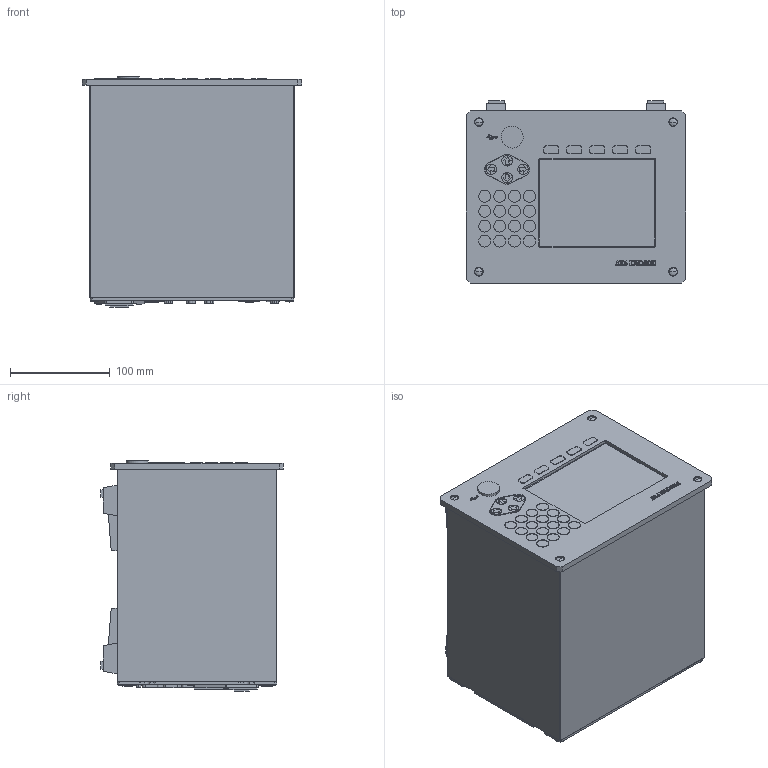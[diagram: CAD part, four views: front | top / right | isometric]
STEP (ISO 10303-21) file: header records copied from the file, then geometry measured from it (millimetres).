
FILE_DESCRIPTION(('STEP AP214'),'1');
FILE_NAME('burster_9307-vx0x0_ah30v3l1wzzgh94y4ih42xdte.stp','2017-04-21T17:19:54',('TraceParts'),('TraceParts S.A.'),'Spatial InterOp 3D',' ',' ');
FILE_SCHEMA(('automotive_design'));
Length unit declared in the file: millimetre
Products named in the file (1): burster_9307-vx0x0_ah30v3l1wzzgh94y4ih42xdte
Bounding box: 220 x 183 x 231.2 mm (x, y, z)
Volume: 7331894.7 mm3; surface area: 258844.2 mm2
Topology: 1 solids, 13 shells, 1345 faces, 3356 edges, 2227 vertices
Faces by surface type: plane 766, cylinder 465, bspline 80, sphere 18, cone 8, torus 8
Entity records: 52095 total; most frequent: CARTESIAN_POINT 8701, DIRECTION 6743, ORIENTED_EDGE 6676, EDGE_CURVE 3338, AXIS2_PLACEMENT_3D 2299, VERTEX_POINT 2227, LINE 2145, VECTOR 2145
